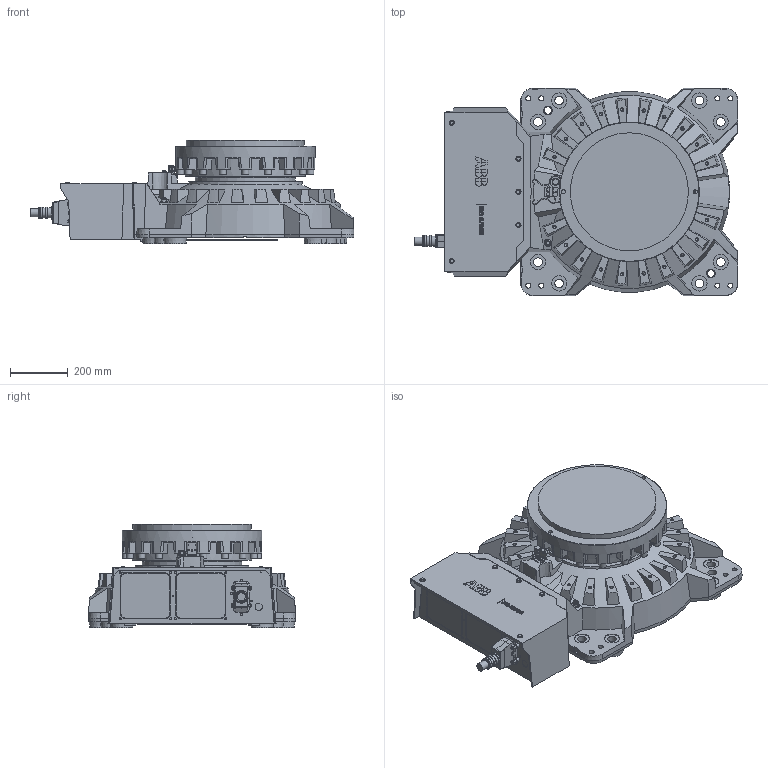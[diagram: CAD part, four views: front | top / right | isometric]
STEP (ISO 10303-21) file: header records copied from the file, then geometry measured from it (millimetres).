
FILE_DESCRIPTION (( 'STEP AP203' ), '1' );
FILE_NAME ('IRB6730S_All_OC_00_BASE_CAD.step', '2025-12-19T13:40:54', ( '' ), ( '' ), 'SwSTEP 2.0', 'SolidWorks 2024', '' );
FILE_SCHEMA (( 'CONFIG_CONTROL_DESIGN' ));
Products named in the file (1): IRB6730S_All_OC_00_BASE_CAD
Bounding box: 1124.5 x 720 x 359.4 mm (x, y, z)
Volume: 112344107.5 mm3; surface area: 3038829 mm2
Topology: 1 solids, 1 shells, 1337 faces, 3455 edges, 2256 vertices
Faces by surface type: plane 798, cylinder 242, cone 187, bspline 100, torus 5, sphere 5
Full cylindrical faces by diameter (mm): 5.2 x4, 5.45 x1, 6 x2, 6.6 x4, 6.8 x8, 10 x4, 10.2 x20, 11.05 x2, 12 x8, 14 x2, 17 x1, 17.5 x8, 17.7 x1, 18 x2, 19.7 x2, 20 x1, 23 x1, 24 x18, 25 x1, 26.5 x1, 28 x1, 28.58 x1, 30 x10, 36 x3, 40 x4, 45 x5, 53 x8, 347 x1, 410 x1, 485 x1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
Entity records: 44000 total; most frequent: CARTESIAN_POINT 13453, ORIENTED_EDGE 6358, DIRECTION 5810, EDGE_CURVE 3179, VERTEX_POINT 2184, AXIS2_PLACEMENT_3D 2085, EDGE_LOOP 1721, LINE 1640
